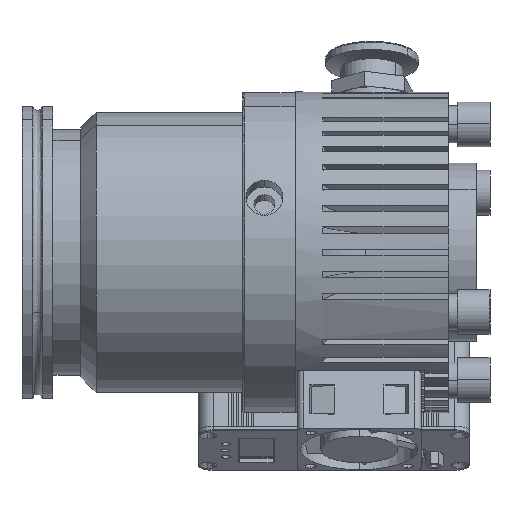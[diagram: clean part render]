
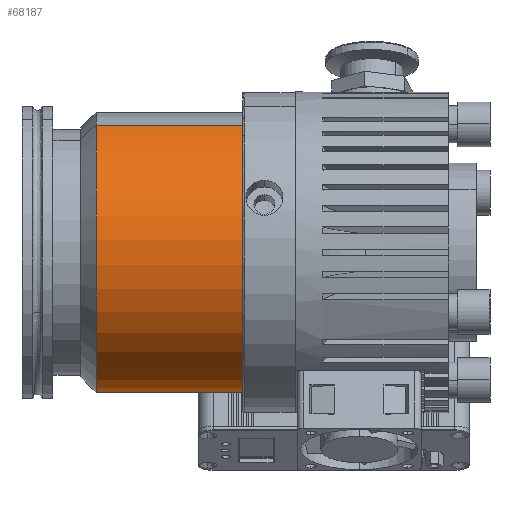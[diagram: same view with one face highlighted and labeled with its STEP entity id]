
A CAD part, left-side view. The second image highlights one B-rep face of the part: STEP entity #68187.
In plain terms, the highlighted cylindrical face has radius 45.5 mm (diameter 91 mm), a partial arc.
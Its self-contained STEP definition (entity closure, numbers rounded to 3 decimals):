
#5253 = DIRECTION ( 'NONE',  ( 0., 0., -1. ) ) ;
#5312 = DIRECTION ( 'NONE',  ( 0., -1., 0. ) ) ;
#5511 = CARTESIAN_POINT ( 'NONE',  ( 0., 64.55, 0. ) ) ;
#9731 = EDGE_CURVE ( 'NONE', #94558, #101753, #181937, .T. ) ;
#24862 = EDGE_CURVE ( 'NONE', #143990, #137137, #154216, .T. ) ;
#24981 = DIRECTION ( 'NONE',  ( 0., 0., -1. ) ) ;
#25149 = DIRECTION ( 'NONE',  ( 0., 1., 0. ) ) ;
#25188 = CARTESIAN_POINT ( 'NONE',  ( 0., 17., 0. ) ) ;
#34021 = LINE ( 'NONE', #87706, #120793 ) ;
#34765 = DIRECTION ( 'NONE',  ( 0., 0., -1. ) ) ;
#37270 = AXIS2_PLACEMENT_3D ( 'NONE', #5511, #5312, #5253 ) ;
#44433 = EDGE_LOOP ( 'NONE', ( #57505, #71993, #102063, #183776 ) ) ;
#47642 = CARTESIAN_POINT ( 'NONE',  ( 0., 17., -45.5 ) ) ;
#51463 = DIRECTION ( 'NONE',  ( 0., -1., 0. ) ) ;
#53596 = CARTESIAN_POINT ( 'NONE',  ( 0., 17., 45.5 ) ) ;
#57505 = ORIENTED_EDGE ( 'NONE', *, *, #24862, .T. ) ;
#68187 = ADVANCED_FACE ( 'NONE', ( #164801 ), #72758, .T. ) ;
#71993 = ORIENTED_EDGE ( 'NONE', *, *, #103853, .T. ) ;
#72418 = AXIS2_PLACEMENT_3D ( 'NONE', #138505, #51463, #34765 ) ;
#72758 = CYLINDRICAL_SURFACE ( 'NONE', #72418, 45.5 ) ;
#87706 = CARTESIAN_POINT ( 'NONE',  ( 0., 0., -45.5 ) ) ;
#94558 = VERTEX_POINT ( 'NONE', #53596 ) ;
#97323 = VECTOR ( 'NONE', #163961, 1000. ) ;
#101753 = VERTEX_POINT ( 'NONE', #47642 ) ;
#102063 = ORIENTED_EDGE ( 'NONE', *, *, #9731, .T. ) ;
#103853 = EDGE_CURVE ( 'NONE', #137137, #94558, #108164, .T. ) ;
#106027 = CARTESIAN_POINT ( 'NONE',  ( 0., 64.55, 45.5 ) ) ;
#108164 = LINE ( 'NONE', #128446, #97323 ) ;
#111610 = AXIS2_PLACEMENT_3D ( 'NONE', #25188, #25149, #24981 ) ;
#120793 = VECTOR ( 'NONE', #208523, 1000. ) ;
#128446 = CARTESIAN_POINT ( 'NONE',  ( 0., 0., 45.5 ) ) ;
#137137 = VERTEX_POINT ( 'NONE', #106027 ) ;
#138505 = CARTESIAN_POINT ( 'NONE',  ( 0., 0., 0. ) ) ;
#142851 = CARTESIAN_POINT ( 'NONE',  ( 0., 64.55, -45.5 ) ) ;
#143990 = VERTEX_POINT ( 'NONE', #142851 ) ;
#154216 = CIRCLE ( 'NONE', #37270, 45.5 ) ;
#163961 = DIRECTION ( 'NONE',  ( 0., -1., 0. ) ) ;
#164801 = FACE_OUTER_BOUND ( 'NONE', #44433, .T. ) ;
#168805 = EDGE_CURVE ( 'NONE', #143990, #101753, #34021, .T. ) ;
#181937 = CIRCLE ( 'NONE', #111610, 45.5 ) ;
#183776 = ORIENTED_EDGE ( 'NONE', *, *, #168805, .F. ) ;
#208523 = DIRECTION ( 'NONE',  ( 0., -1., 0. ) ) ;
